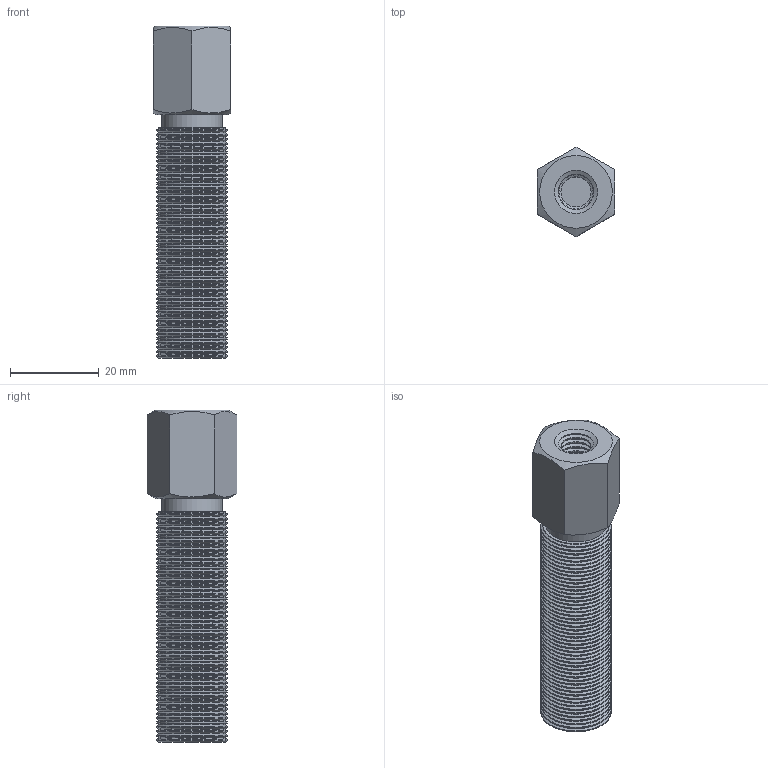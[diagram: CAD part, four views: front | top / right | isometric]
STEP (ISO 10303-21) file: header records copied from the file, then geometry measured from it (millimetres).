
FILE_DESCRIPTION (( 'STEP AP214' ), '1' );
FILE_NAME ('1776.STEP', '2021-12-10T15:09:16', ( '' ), ( '' ), 'SwSTEP 2.0', 'SolidWorks 2020', '' );
FILE_SCHEMA (( 'AUTOMOTIVE_DESIGN' ));
Length unit declared in the file: millimetre
Products named in the file (1): 1776
Bounding box: 17.5 x 20.21 x 75 mm (x, y, z)
Volume: 14770 mm3; surface area: 6494.3 mm2
Topology: 1 solids, 1 shells, 277 faces, 659 edges, 388 vertices
Faces by surface type: cone 133, cylinder 132, plane 12
Full cylindrical faces by diameter (mm): 6.8 x13, 6.801 x1, 8 x13, 13.7 x1, 15.001 x52, 16 x51, 16.001 x1
Entity records: 5744 total; most frequent: DIRECTION 1100, CARTESIAN_POINT 978, ORIENTED_EDGE 574, AXIS2_PLACEMENT_3D 547, EDGE_LOOP 546, FACE_OUTER_BOUND 409, EDGE_CURVE 287, VERTEX_POINT 281
